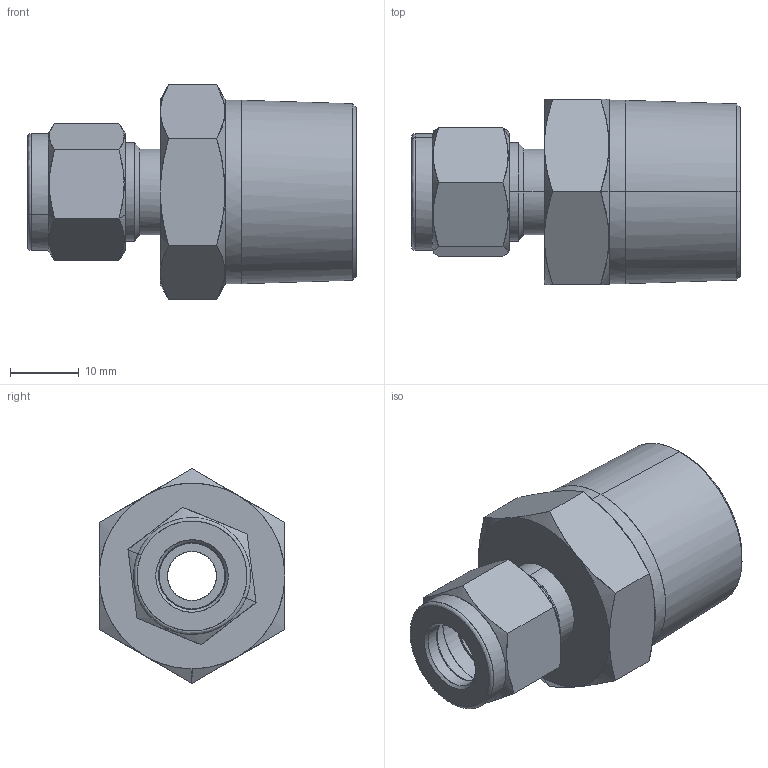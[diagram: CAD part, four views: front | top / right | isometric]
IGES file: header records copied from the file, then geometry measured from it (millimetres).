
Start section: Comment
Global section: file name: SMC6-12N.igs; native system:  By UGS Corp.; preprocessor: XPlus GENERIC/IGES 3.0; author: Author; organization: Title; date: 20100113.154941; units: millimetre
Bounding box: 47.8 x 27 x 31.18 mm (x, y, z)
Surface area: 6694 mm2 (no closed solid volume)
Topology: 0 solids, 0 shells, 80 faces, 336 edges, 336 vertices
Faces by surface type: bspline 80
